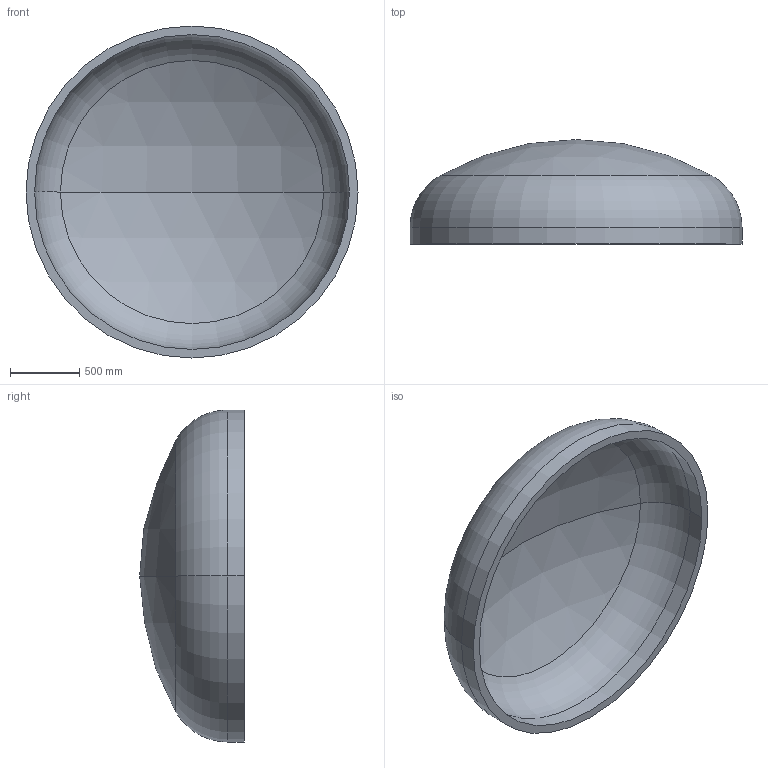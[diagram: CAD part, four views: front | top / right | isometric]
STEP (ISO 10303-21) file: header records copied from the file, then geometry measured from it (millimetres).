
FILE_DESCRIPTION (( 'STEP AP203' ), '1' );
FILE_NAME ('DIN 28013 Korbbogenform_-_Boden DIN 28013 - 2400 x 120 - I - s=62.step', '2016-07-01T15:30:06', ( '' ), ( '' ), 'SwSTEP 2.0', 'SolidWorks 2013', '' );
FILE_SCHEMA (( 'CONFIG_CONTROL_DESIGN' ));
Length unit declared in the file: millimetre
Products named in the file (1): DIN 28013 Korbbogenform_-_Boden DIN 28013 - 2400 x 120 - I - s=62
Bounding box: 2400 x 755.64 x 2400 mm (x, y, z)
Volume: 430257351.4 mm3; surface area: 14342708.5 mm2
Topology: 1 solids, 1 shells, 13 faces, 24 edges, 14 vertices
Faces by surface type: torus 4, cylinder 4, sphere 4, plane 1
Entity records: 407 total; most frequent: DIRECTION 72, CARTESIAN_POINT 52, ORIENTED_EDGE 48, AXIS2_PLACEMENT_3D 34, EDGE_CURVE 24, CIRCLE 20, EDGE_LOOP 14, VERTEX_POINT 14
